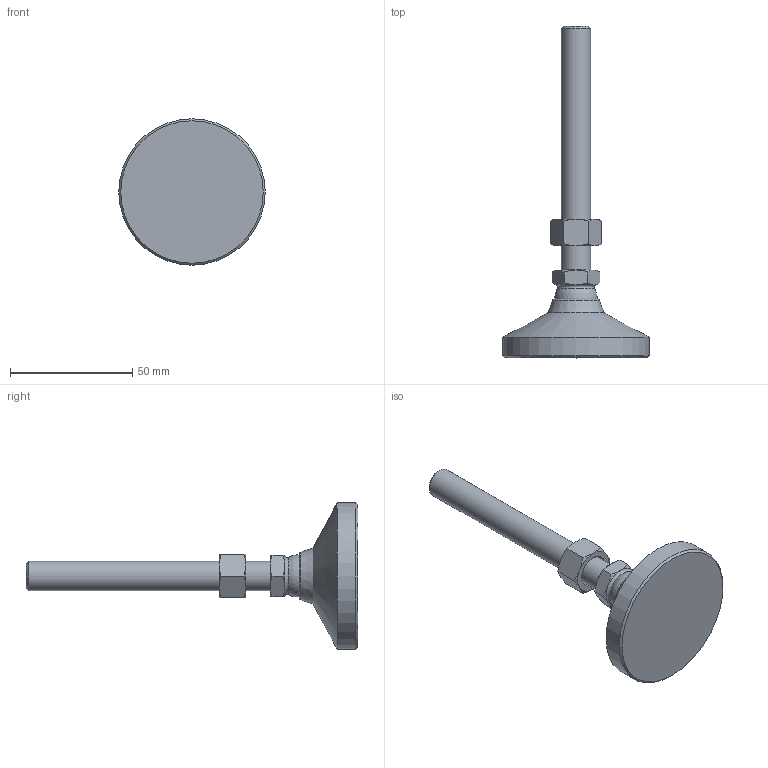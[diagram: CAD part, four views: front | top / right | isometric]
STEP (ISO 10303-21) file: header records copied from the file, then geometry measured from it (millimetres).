
FILE_DESCRIPTION( ( 'STEP AP214' ), ' ' );
FILE_NAME( 'O:/ganter_2015/teil_2/2_5/gn343_2/gn343_2_os/Levelling foot with threaded stud GN 343.2-60-M12-100-OS-(0).stp', '2015-10-26T09:08:23', ( '' ), ( '' ), ' ', 'PARTsolutions', ' ' );
FILE_SCHEMA( ( 'AUTOMOTIVE_DESIGN { 1 0 10303 214 1 1 1 1 }' ) );
Length unit declared in the file: millimetre
Products named in the file (4): Levelling foot with threaded stud GN 343.2-60-M12-100-OS-(0); _Levelling foot with threaded stud GN 343.2-60-M12-100-OS-(0)_foot; _Levelling foot with threaded stud GN 343.2-60-M12-100-OS-(0)_screw; _Stainless Steel-Levelling feet GN 343.2-60-M12-100-OS-(0)_nut
Assembly tree (3 placements, depth 2):
  Levelling foot with threaded stud GN 343.2-60-M12-100-OS-(0)
    _Levelling foot with threaded stud GN 343.2-60-M12-100-OS-(0)_foot
    _Levelling foot with threaded stud GN 343.2-60-M12-100-OS-(0)_screw
    _Stainless Steel-Levelling feet GN 343.2-60-M12-100-OS-(0)_nut
Bounding box: 60 x 136 x 60 mm (x, y, z)
Volume: 56351.5 mm3; surface area: 14490.9 mm2
Topology: 3 solids, 3 shells, 55 faces, 116 edges, 67 vertices
Faces by surface type: cone 30, plane 18, cylinder 3, torus 2, sphere 2
Full cylindrical faces by diameter (mm): 10.106 x1, 12 x1, 60 x1
Entity records: 2038 total; most frequent: CARTESIAN_POINT 495, DIRECTION 208, ORIENTED_EDGE 198, EDGE_CURVE 99, AXIS2_PLACEMENT_3D 98, EDGE_LOOP 70, VERTEX_POINT 65, FACE_OUTER_BOUND 60
